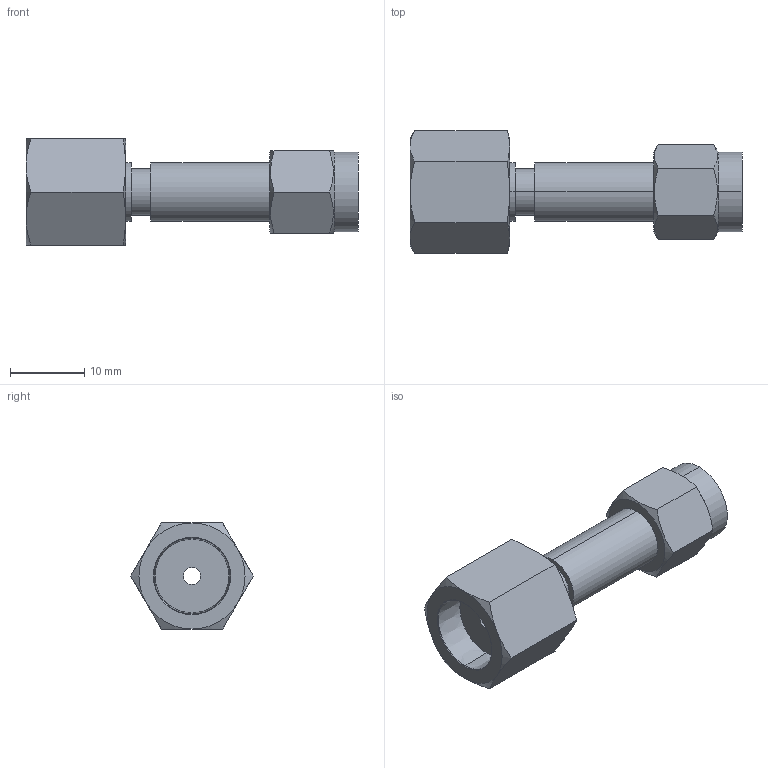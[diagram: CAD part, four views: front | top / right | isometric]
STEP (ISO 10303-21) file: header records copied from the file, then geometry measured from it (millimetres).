
FILE_DESCRIPTION (( 'STEP AP203' ), '1' );
FILE_NAME ('DSS02-02 SS.STEP', '2009-09-08T09:15:26', ( ' ' ), ( '' ), 'SwSTEP 2.0', 'SolidWorks 2008', '' );
FILE_SCHEMA (( 'CONFIG_CONTROL_DESIGN' ));
Length unit declared in the file: millimetre
Products named in the file (1): DSS02-02 SS
Bounding box: 44.7 x 16.5 x 14.29 mm (x, y, z)
Volume: 3939.3 mm3; surface area: 2498.5 mm2
Topology: 1 solids, 1 shells, 52 faces, 116 edges, 72 vertices
Faces by surface type: cone 20, plane 20, cylinder 12
Entity records: 1661 total; most frequent: CARTESIAN_POINT 465, ORIENTED_EDGE 232, DIRECTION 226, EDGE_CURVE 116, AXIS2_PLACEMENT_3D 97, VERTEX_POINT 72, EDGE_LOOP 60, ADVANCED_FACE 52
